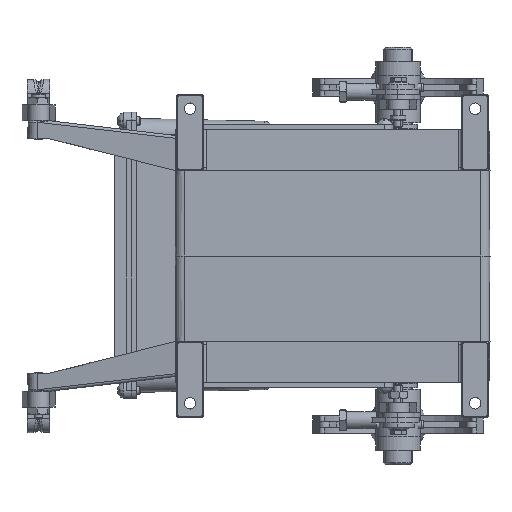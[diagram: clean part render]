
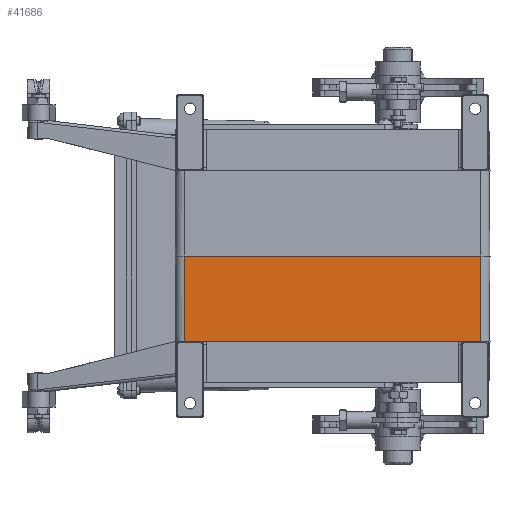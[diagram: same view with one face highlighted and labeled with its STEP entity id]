
A CAD part, front view. The second image highlights one B-rep face of the part: STEP entity #41686.
In plain terms, the highlighted planar face has unit normal (0, -1, -0.007).
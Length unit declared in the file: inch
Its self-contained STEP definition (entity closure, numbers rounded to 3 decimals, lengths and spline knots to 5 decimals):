
#1287 = PLANE ( 'NONE',  #17174 ) ;
#4421 = ORIENTED_EDGE ( 'NONE', *, *, #13182, .T. ) ;
#10072 = CARTESIAN_POINT ( 'NONE',  ( 6.72, 0., 0. ) ) ;
#10741 = CARTESIAN_POINT ( 'NONE',  ( 0.2, 0., 0. ) ) ;
#13182 = EDGE_CURVE ( 'NONE', #55813, #33769, #26202, .T. ) ;
#13668 = DIRECTION ( 'NONE',  ( 0., -0.007, 1. ) ) ;
#14082 = EDGE_LOOP ( 'NONE', ( #42738, #49512, #32230, #4421 ) ) ;
#15239 = VECTOR ( 'NONE', #63608, 39.37008 ) ;
#15406 = EDGE_CURVE ( 'NONE', #56394, #49964, #48671, .T. ) ;
#16338 = FACE_OUTER_BOUND ( 'NONE', #14082, .T. ) ;
#17174 = AXIS2_PLACEMENT_3D ( 'NONE', #22655, #38081, #65637 ) ;
#18542 = CARTESIAN_POINT ( 'NONE',  ( 0.2, 0., 0. ) ) ;
#20130 = CARTESIAN_POINT ( 'NONE',  ( 4.9, 0.01309, -1.875 ) ) ;
#22655 = CARTESIAN_POINT ( 'NONE',  ( 0.2, 0., 0. ) ) ;
#26202 = LINE ( 'NONE', #10072, #15239 ) ;
#27911 = CARTESIAN_POINT ( 'NONE',  ( 6.72, 0.01309, -1.875 ) ) ;
#31430 = LINE ( 'NONE', #10741, #34169 ) ;
#32230 = ORIENTED_EDGE ( 'NONE', *, *, #66399, .T. ) ;
#33769 = VERTEX_POINT ( 'NONE', #42814 ) ;
#34169 = VECTOR ( 'NONE', #48149, 39.37008 ) ;
#36317 = DIRECTION ( 'NONE',  ( 1., 0., 0. ) ) ;
#38081 = DIRECTION ( 'NONE',  ( 0., -1., -0.007 ) ) ;
#40159 = VECTOR ( 'NONE', #13668, 39.37008 ) ;
#41686 = ADVANCED_FACE ( 'NONE', ( #16338 ), #1287, .T. ) ;
#42738 = ORIENTED_EDGE ( 'NONE', *, *, #56954, .F. ) ;
#42814 = CARTESIAN_POINT ( 'NONE',  ( 6.72, 0., 0. ) ) ;
#44929 = CARTESIAN_POINT ( 'NONE',  ( 0.2, 0., 0. ) ) ;
#46083 = LINE ( 'NONE', #20130, #60134 ) ;
#48149 = DIRECTION ( 'NONE',  ( 1., 0., 0. ) ) ;
#48671 = LINE ( 'NONE', #18542, #40159 ) ;
#49512 = ORIENTED_EDGE ( 'NONE', *, *, #15406, .F. ) ;
#49964 = VERTEX_POINT ( 'NONE', #44929 ) ;
#50647 = CARTESIAN_POINT ( 'NONE',  ( 0.2, 0.01309, -1.875 ) ) ;
#55813 = VERTEX_POINT ( 'NONE', #27911 ) ;
#56394 = VERTEX_POINT ( 'NONE', #50647 ) ;
#56954 = EDGE_CURVE ( 'NONE', #49964, #33769, #31430, .T. ) ;
#60134 = VECTOR ( 'NONE', #36317, 39.37008 ) ;
#63608 = DIRECTION ( 'NONE',  ( 0., -0.007, 1. ) ) ;
#65637 = DIRECTION ( 'NONE',  ( 0., 0.007, -1. ) ) ;
#66399 = EDGE_CURVE ( 'NONE', #56394, #55813, #46083, .T. ) ;
